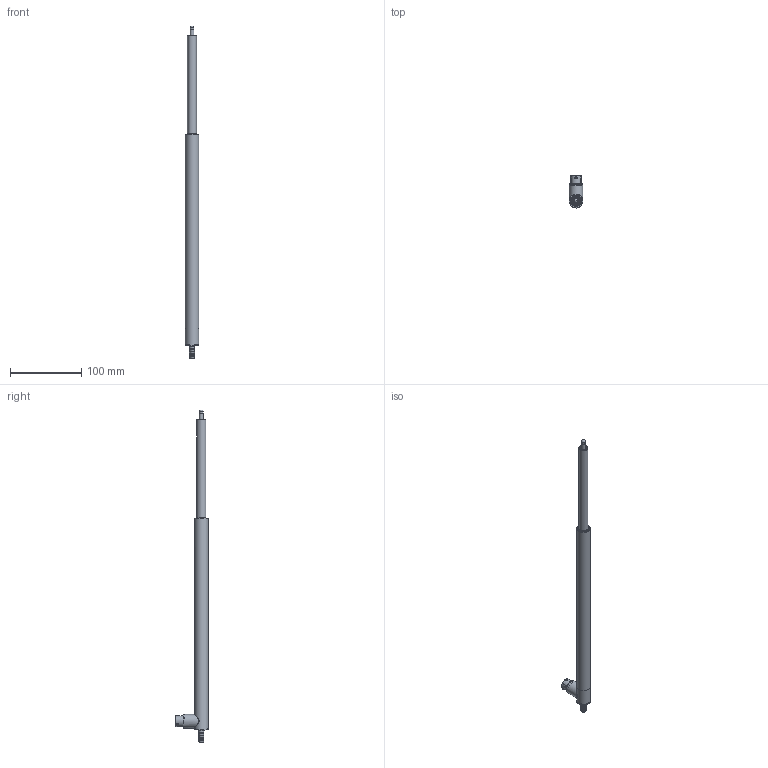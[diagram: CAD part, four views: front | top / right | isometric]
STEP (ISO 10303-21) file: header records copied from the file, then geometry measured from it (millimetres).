
FILE_DESCRIPTION(/* description */ (''),/* implementation_level */ '2;1');
FILE_NAME(/* name */ 'GHRA-750-I-4000 ASS''Y.step',/* time_stamp */ '2023-09-01T12:43:15-04:00',/* author */ ('J. Nielson'),/* organization */ (''),/* preprocessor_version */ 'ST-DEVELOPER v19.2',/* originating_system */ 'Autodesk Inventor 2024',/* authorisation */ '');
FILE_SCHEMA (('AUTOMOTIVE_DESIGN { 1 0 10303 214 3 1 1 }'));
Length unit declared in the file: inch
Products named in the file (3): GHRA-750-E-4000; GHR-750-E-4000 HOUSING ASSEMBLY_SW; GHR-750-E-4000 SHAFT ASSEMBLY_SW
Assembly tree (2 placements, depth 2):
  GHRA-750-E-4000
    GHR-750-E-4000 HOUSING ASSEMBLY_SW
    GHR-750-E-4000 SHAFT ASSEMBLY_SW
Bounding box: 19.05 x 45.24 x 466.98 mm (x, y, z)
Volume: 47191.3 mm3; surface area: 53294.2 mm2
Topology: 15 solids, 15 shells, 180 faces, 356 edges, 237 vertices
Faces by surface type: plane 75, cylinder 72, cone 19, bspline 8, torus 5, sphere 1
Full cylindrical faces by diameter (mm): 0.762 x12, 1.905 x1, 2.032 x3, 2.845 x2, 3.048 x3, 4.762 x1, 4.826 x2, 5.334 x4, 5.397 x1, 6 x1, 6.731 x1, 7.493 x4, 7.671 x2, 7.874 x1, 12.7 x1, 13.208 x1, 14.986 x1, 15.748 x2, 16.51 x1, 17.018 x1, 17.069 x1, 17.78 x1, 18.034 x1, 18.415 x6, 19.05 x2
Entity records: 7007 total; most frequent: CARTESIAN_POINT 2775, DIRECTION 865, ORIENTED_EDGE 708, AXIS2_PLACEMENT_3D 368, EDGE_CURVE 354, EDGE_LOOP 237, VERTEX_POINT 237, STYLED_ITEM 195
